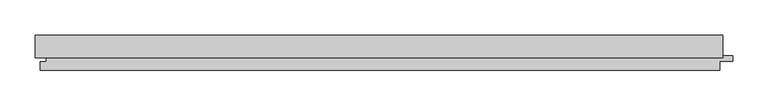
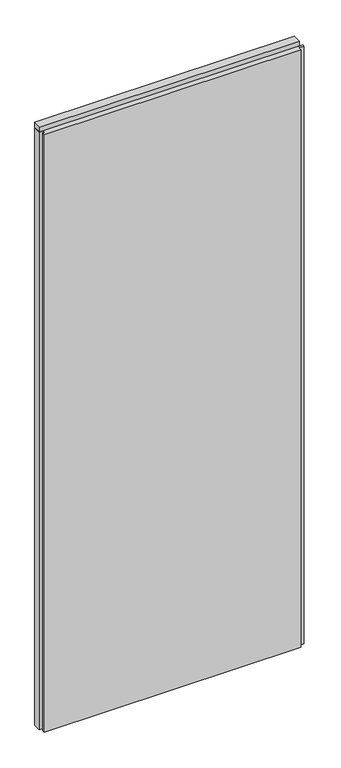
"""IFC4 building model written with IfcOpenShell, lengths in millimetres: plate geometry, Trimo_Qbiss Screen_Normal Panel-VERTICAL : HR - FB-F."""

from ifc_helpers import new_model, si_unit, frame, origin, place, context, project, spatial, polyline, outline, extrude, source, transform, mapped, element, save


def plate_657293a5(model_context):
    return source(origin(), model_context, "Body", "SweptSolid", [
        extrude(outline(polyline([(-488.5, 93.9), (-488.5, 126.0), (488.5, 126.0), (488.5, 93.9), (-488.5, 93.9)])), frame((0.0, 0.0, 2390.5), z_axis=(0.0, 0.0, 1.0), x_axis=(1.0, 0.0, 0.0)), (0.0, 0.0, 1.0), 19.0),
        extrude(outline(polyline([(484.5, 97.0), (503.0, 97.0), (503.0, 89.0), (484.5, 89.0), (484.5, 76.0), (-481.5, 76.0), (-481.5, 88.0), (-473.0, 88.0), (-473.0, 98.0), (-488.5, 98.0), (-488.5, 126.0), (484.5, 126.0), (484.5, 97.0)])), frame((0.0, 0.0, 12.5), z_axis=(0.0, 0.0, 1.0), x_axis=(1.0, 0.0, 0.0)), (0.0, 0.0, 1.0), 2375.0),
    ])


if __name__ == "__main__":
    model = new_model("IFC4")
    model_context = context("Model", 3, world=origin())
    ifc_project = project(units=[si_unit("LENGTHUNIT", "METRE", prefix="MILLI")], contexts=[model_context])
    site = spatial("IfcSite", under=ifc_project)
    building = spatial("IfcBuilding", under=site)
    placement = place(None, origin())
    plate_shape = plate_657293a5(model_context)
    element("IfcPlate", 1, ObjectType="Trimo_Qbiss Screen_Normal Panel-VERTICAL : HR - FB-F", at=placement, inside=building, context=model_context, shape_type="MappedRepresentation", body=[
        mapped(plate_shape, transform((0.0, 0.0, 0.0), x_axis=(1.0, 0.0, 0.0), y_axis=(0.0, 1.0, 0.0), z_axis=(0.0, 0.0, 1.0))),
    ])
    save(model, "model.ifc")
